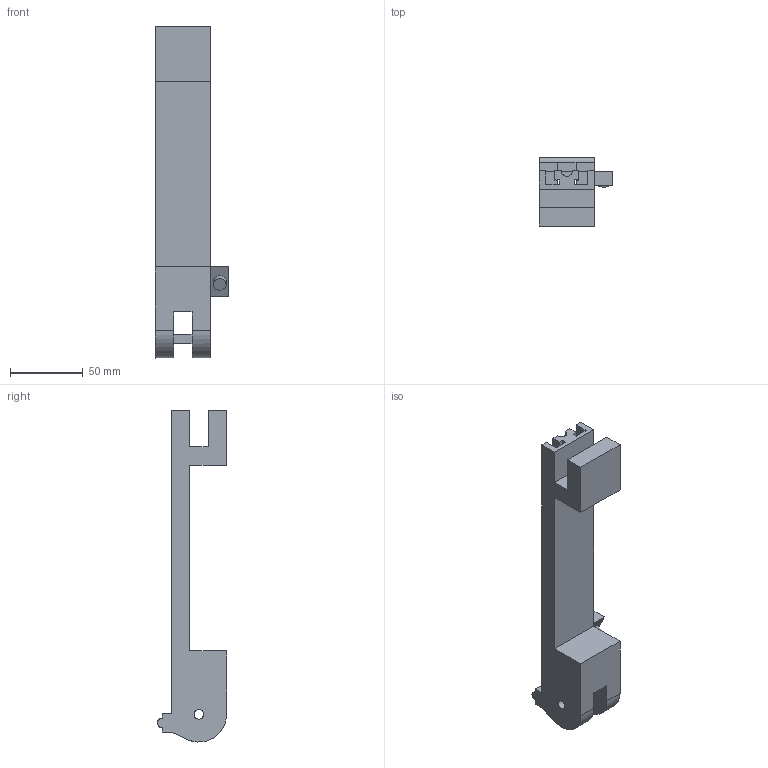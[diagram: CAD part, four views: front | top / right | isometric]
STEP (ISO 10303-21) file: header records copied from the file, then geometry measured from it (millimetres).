
FILE_DESCRIPTION( ( '' ), ' ' );
FILE_NAME( '/vol/tmp/translate-7265505631474094218/56e724fce4b014264326d133.step', '2016-03-14T20:54:20', ( '' ), ( '' ), ' ', ' ', ' ' );
FILE_SCHEMA( ( 'AUTOMOTIVE_DESIGN { 1 0 10303 214 1 1 1 1 }' ) );
Length unit declared in the file: metre
Products named in the file (1): body 1
Bounding box: 50.8 x 47.62 x 228.57 mm (x, y, z)
Volume: 143459.9 mm3; surface area: 49856.3 mm2
Topology: 1 solids, 1 shells, 62 faces, 194 edges, 130 vertices
Faces by surface type: plane 49, cylinder 13
Entity records: 2862 total; most frequent: CARTESIAN_POINT 941, ORIENTED_EDGE 388, EDGE_CURVE 194, B_SPLINE_CURVE_WITH_KNOTS 169, DIRECTION 151, VERTEX_POINT 130, EDGE_LOOP 68, AXIS2_PLACEMENT_3D 63
